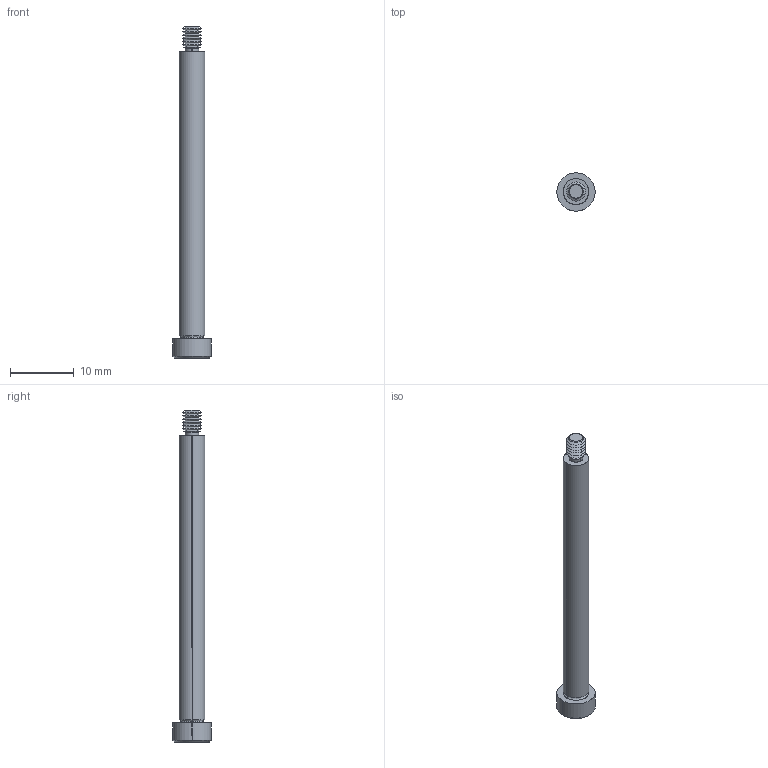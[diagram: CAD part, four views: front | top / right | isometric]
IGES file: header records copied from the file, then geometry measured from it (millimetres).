
Start section: SolidWorks IGES file using analytic representation for surfaces
Global section: file name: C:\Users\IanO\Documents\Temp Folder\GENERAL\SCREW REVISION\P0130_v2\P0130.T5_v2_20220106_IGES\P0130.040-045-T5.igs; native system: SolidWorks 2019; preprocessor: SolidWorks 2019; author: IanO; date: 220106.221058; units: millimetre
Bounding box: 6 x 6 x 52 mm (x, y, z)
Surface area: 750.4 mm2 (no closed solid volume)
Topology: 0 solids, 0 shells, 68 faces, 520 edges, 518 vertices
Faces by surface type: revolution 48, bspline 20
